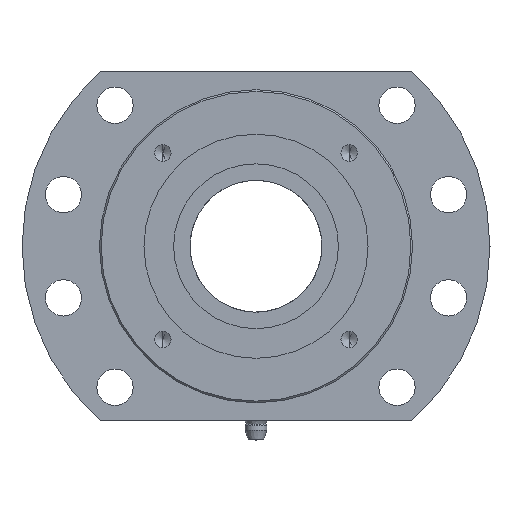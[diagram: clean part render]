
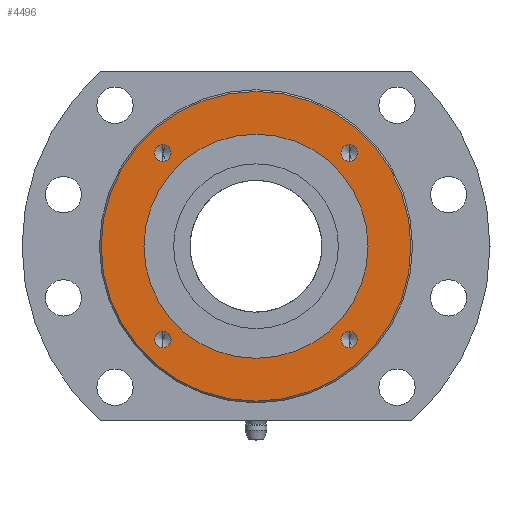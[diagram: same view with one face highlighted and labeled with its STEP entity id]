
A CAD part, left-side view. The second image highlights one B-rep face of the part: STEP entity #4496.
In plain terms, the highlighted planar face has unit normal (-1, 0, 0).
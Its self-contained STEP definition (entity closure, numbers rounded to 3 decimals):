
#56 = DIRECTION ( 'NONE',  ( -1., 0., 0. ) ) ;
#142 = CARTESIAN_POINT ( 'NONE',  ( 0., 28.284, -28.284 ) ) ;
#258 = CIRCLE ( 'NONE', #11316, 2.5 ) ;
#280 = CARTESIAN_POINT ( 'NONE',  ( 0., -28.284, 28.284 ) ) ;
#325 = DIRECTION ( 'NONE',  ( 0., -1., 0. ) ) ;
#360 = DIRECTION ( 'NONE',  ( -1., 0., 0. ) ) ;
#436 = DIRECTION ( 'NONE',  ( 0., -1., 0. ) ) ;
#698 = EDGE_LOOP ( 'NONE', ( #14889, #12475 ) ) ;
#761 = EDGE_CURVE ( 'NONE', #9798, #17534, #5360, .T. ) ;
#1445 = CIRCLE ( 'NONE', #17146, 34. ) ;
#1463 = EDGE_CURVE ( 'NONE', #4380, #4584, #23064, .T. ) ;
#1668 = AXIS2_PLACEMENT_3D ( 'NONE', #11367, #360, #436 ) ;
#2032 = VERTEX_POINT ( 'NONE', #23412 ) ;
#2333 = VERTEX_POINT ( 'NONE', #15821 ) ;
#2595 = EDGE_LOOP ( 'NONE', ( #6735, #14737 ) ) ;
#3318 = CARTESIAN_POINT ( 'NONE',  ( 0., 28.284, -28.284 ) ) ;
#3594 = CARTESIAN_POINT ( 'NONE',  ( 0., -28.284, -28.284 ) ) ;
#3768 = CARTESIAN_POINT ( 'NONE',  ( 0., 34., 0. ) ) ;
#4380 = VERTEX_POINT ( 'NONE', #3768 ) ;
#4496 = ADVANCED_FACE ( 'NONE', ( #5522, #16701, #16406, #8379, #13822, #15258 ), #7819, .F. ) ;
#4584 = VERTEX_POINT ( 'NONE', #11731 ) ;
#4618 = CIRCLE ( 'NONE', #16526, 2.5 ) ;
#4634 = DIRECTION ( 'NONE',  ( -1., 0., 0. ) ) ;
#4759 = CARTESIAN_POINT ( 'NONE',  ( 0., -28.284, -28.284 ) ) ;
#4767 = AXIS2_PLACEMENT_3D ( 'NONE', #15586, #6527, #13653 ) ;
#4874 = AXIS2_PLACEMENT_3D ( 'NONE', #13603, #11599, #19066 ) ;
#5360 = CIRCLE ( 'NONE', #7760, 2.5 ) ;
#5522 = FACE_BOUND ( 'NONE', #19898, .T. ) ;
#6107 = CARTESIAN_POINT ( 'NONE',  ( 0., 28.284, 28.284 ) ) ;
#6332 = ORIENTED_EDGE ( 'NONE', *, *, #761, .F. ) ;
#6527 = DIRECTION ( 'NONE',  ( -1., 0., 0. ) ) ;
#6536 = EDGE_CURVE ( 'NONE', #17534, #9798, #4618, .T. ) ;
#6565 = AXIS2_PLACEMENT_3D ( 'NONE', #6107, #13304, #7779 ) ;
#6733 = EDGE_CURVE ( 'NONE', #7813, #2032, #12878, .T. ) ;
#6735 = ORIENTED_EDGE ( 'NONE', *, *, #19035, .F. ) ;
#6740 = EDGE_LOOP ( 'NONE', ( #13171, #19010 ) ) ;
#6853 = EDGE_CURVE ( 'NONE', #8663, #8976, #8010, .T. ) ;
#7044 = VERTEX_POINT ( 'NONE', #18983 ) ;
#7154 = VERTEX_POINT ( 'NONE', #17677 ) ;
#7287 = EDGE_CURVE ( 'NONE', #7154, #7044, #18890, .T. ) ;
#7326 = CIRCLE ( 'NONE', #20132, 2.5 ) ;
#7349 = AXIS2_PLACEMENT_3D ( 'NONE', #3318, #10635, #23451 ) ;
#7449 = EDGE_CURVE ( 'NONE', #8976, #8663, #8845, .T. ) ;
#7593 = EDGE_CURVE ( 'NONE', #7044, #7154, #258, .T. ) ;
#7760 = AXIS2_PLACEMENT_3D ( 'NONE', #3594, #19906, #14614 ) ;
#7779 = DIRECTION ( 'NONE',  ( 0., 0., 1. ) ) ;
#7813 = VERTEX_POINT ( 'NONE', #9795 ) ;
#7819 = PLANE ( 'NONE',  #16051 ) ;
#8010 = CIRCLE ( 'NONE', #6565, 2.5 ) ;
#8379 = FACE_BOUND ( 'NONE', #698, .T. ) ;
#8654 = DIRECTION ( 'NONE',  ( -1., 0., 0. ) ) ;
#8663 = VERTEX_POINT ( 'NONE', #16359 ) ;
#8845 = CIRCLE ( 'NONE', #4767, 2.5 ) ;
#8976 = VERTEX_POINT ( 'NONE', #15912 ) ;
#9238 = EDGE_LOOP ( 'NONE', ( #21276, #6332 ) ) ;
#9589 = CARTESIAN_POINT ( 'NONE',  ( 0., 0., 0. ) ) ;
#9601 = DIRECTION ( 'NONE',  ( 0., 0., 1. ) ) ;
#9795 = CARTESIAN_POINT ( 'NONE',  ( 0., -47., 0. ) ) ;
#9798 = VERTEX_POINT ( 'NONE', #22790 ) ;
#10635 = DIRECTION ( 'NONE',  ( -1., 0., 0. ) ) ;
#10929 = DIRECTION ( 'NONE',  ( -1., 0., 0. ) ) ;
#11010 = AXIS2_PLACEMENT_3D ( 'NONE', #13088, #10929, #18395 ) ;
#11179 = DIRECTION ( 'NONE',  ( 1., 0., 0. ) ) ;
#11316 = AXIS2_PLACEMENT_3D ( 'NONE', #280, #11531, #9601 ) ;
#11367 = CARTESIAN_POINT ( 'NONE',  ( 0., 0., 0. ) ) ;
#11531 = DIRECTION ( 'NONE',  ( -1., 0., 0. ) ) ;
#11599 = DIRECTION ( 'NONE',  ( -1., 0., 0. ) ) ;
#11731 = CARTESIAN_POINT ( 'NONE',  ( 0., -34., 0. ) ) ;
#12475 = ORIENTED_EDGE ( 'NONE', *, *, #7449, .F. ) ;
#12878 = CIRCLE ( 'NONE', #1668, 47. ) ;
#13088 = CARTESIAN_POINT ( 'NONE',  ( 0., -28.284, 28.284 ) ) ;
#13171 = ORIENTED_EDGE ( 'NONE', *, *, #14677, .F. ) ;
#13304 = DIRECTION ( 'NONE',  ( -1., 0., 0. ) ) ;
#13603 = CARTESIAN_POINT ( 'NONE',  ( 0., 0., 0. ) ) ;
#13653 = DIRECTION ( 'NONE',  ( 0., 0., 1. ) ) ;
#13725 = DIRECTION ( 'NONE',  ( 0., -1., 0. ) ) ;
#13822 = FACE_BOUND ( 'NONE', #2595, .T. ) ;
#14614 = DIRECTION ( 'NONE',  ( 0., 0., 1. ) ) ;
#14677 = EDGE_CURVE ( 'NONE', #20618, #2333, #7326, .T. ) ;
#14737 = ORIENTED_EDGE ( 'NONE', *, *, #1463, .F. ) ;
#14768 = ORIENTED_EDGE ( 'NONE', *, *, #7593, .F. ) ;
#14877 = AXIS2_PLACEMENT_3D ( 'NONE', #15417, #4634, #13725 ) ;
#14889 = ORIENTED_EDGE ( 'NONE', *, *, #6853, .F. ) ;
#14973 = CARTESIAN_POINT ( 'NONE',  ( 0., 28.284, -25.784 ) ) ;
#15258 = FACE_OUTER_BOUND ( 'NONE', #15894, .T. ) ;
#15417 = CARTESIAN_POINT ( 'NONE',  ( 0., 0., 0. ) ) ;
#15586 = CARTESIAN_POINT ( 'NONE',  ( 0., 28.284, 28.284 ) ) ;
#15821 = CARTESIAN_POINT ( 'NONE',  ( 0., 28.284, -30.784 ) ) ;
#15894 = EDGE_LOOP ( 'NONE', ( #18334, #20046 ) ) ;
#15912 = CARTESIAN_POINT ( 'NONE',  ( 0., 28.284, 25.784 ) ) ;
#16051 = AXIS2_PLACEMENT_3D ( 'NONE', #22136, #11179, #20608 ) ;
#16359 = CARTESIAN_POINT ( 'NONE',  ( 0., 28.284, 30.784 ) ) ;
#16406 = FACE_BOUND ( 'NONE', #6740, .T. ) ;
#16526 = AXIS2_PLACEMENT_3D ( 'NONE', #4759, #8654, #19702 ) ;
#16701 = FACE_BOUND ( 'NONE', #9238, .T. ) ;
#17146 = AXIS2_PLACEMENT_3D ( 'NONE', #9589, #22385, #325 ) ;
#17534 = VERTEX_POINT ( 'NONE', #22096 ) ;
#17677 = CARTESIAN_POINT ( 'NONE',  ( 0., -28.284, 25.784 ) ) ;
#18069 = DIRECTION ( 'NONE',  ( 0., 0., 1. ) ) ;
#18334 = ORIENTED_EDGE ( 'NONE', *, *, #20616, .T. ) ;
#18395 = DIRECTION ( 'NONE',  ( 0., 0., 1. ) ) ;
#18812 = EDGE_CURVE ( 'NONE', #2333, #20618, #21502, .T. ) ;
#18890 = CIRCLE ( 'NONE', #11010, 2.5 ) ;
#18983 = CARTESIAN_POINT ( 'NONE',  ( 0., -28.284, 30.784 ) ) ;
#19010 = ORIENTED_EDGE ( 'NONE', *, *, #18812, .F. ) ;
#19035 = EDGE_CURVE ( 'NONE', #4584, #4380, #1445, .T. ) ;
#19066 = DIRECTION ( 'NONE',  ( 0., -1., 0. ) ) ;
#19702 = DIRECTION ( 'NONE',  ( 0., 0., 1. ) ) ;
#19898 = EDGE_LOOP ( 'NONE', ( #14768, #22352 ) ) ;
#19906 = DIRECTION ( 'NONE',  ( -1., 0., 0. ) ) ;
#20046 = ORIENTED_EDGE ( 'NONE', *, *, #6733, .T. ) ;
#20132 = AXIS2_PLACEMENT_3D ( 'NONE', #142, #56, #18069 ) ;
#20608 = DIRECTION ( 'NONE',  ( 0., 1., 0. ) ) ;
#20616 = EDGE_CURVE ( 'NONE', #2032, #7813, #22842, .T. ) ;
#20618 = VERTEX_POINT ( 'NONE', #14973 ) ;
#21276 = ORIENTED_EDGE ( 'NONE', *, *, #6536, .F. ) ;
#21502 = CIRCLE ( 'NONE', #7349, 2.5 ) ;
#22096 = CARTESIAN_POINT ( 'NONE',  ( 0., -28.284, -25.784 ) ) ;
#22136 = CARTESIAN_POINT ( 'NONE',  ( 0., 34., 0. ) ) ;
#22352 = ORIENTED_EDGE ( 'NONE', *, *, #7287, .F. ) ;
#22385 = DIRECTION ( 'NONE',  ( -1., 0., 0. ) ) ;
#22790 = CARTESIAN_POINT ( 'NONE',  ( 0., -28.284, -30.784 ) ) ;
#22842 = CIRCLE ( 'NONE', #14877, 47. ) ;
#23064 = CIRCLE ( 'NONE', #4874, 34. ) ;
#23412 = CARTESIAN_POINT ( 'NONE',  ( 0., 47., 0. ) ) ;
#23451 = DIRECTION ( 'NONE',  ( 0., 0., 1. ) ) ;
